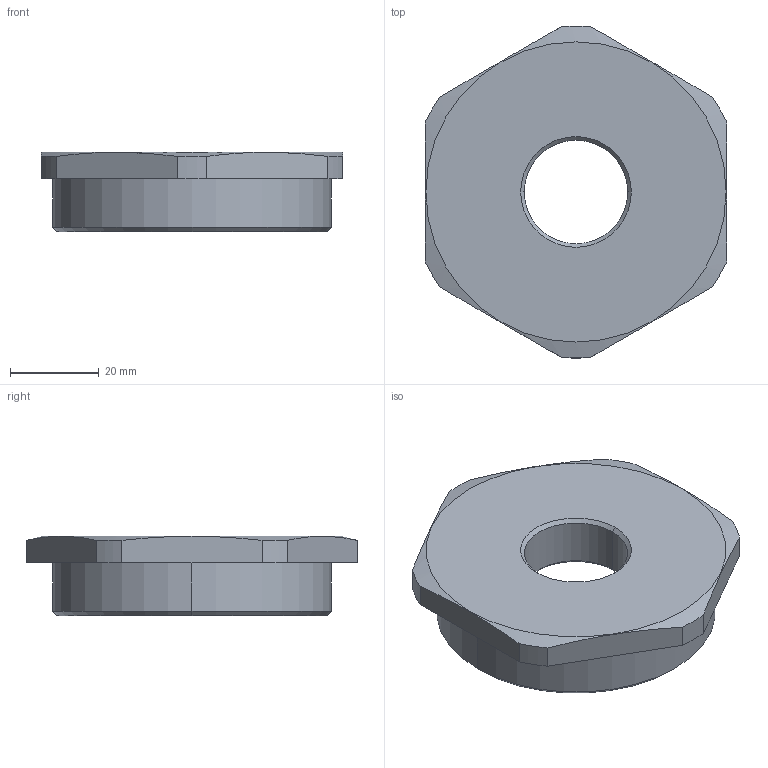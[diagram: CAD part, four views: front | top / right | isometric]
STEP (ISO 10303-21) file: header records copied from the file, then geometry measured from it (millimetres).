
FILE_DESCRIPTION (( 'STEP AP203' ), '1' );
FILE_NAME ('M63M25 PA.STEP', '2005-12-09T08:01:40', ( ' ' ), ( '' ), 'SwSTEP 2.0', 'SolidWorks 2005278', '' );
FILE_SCHEMA (( 'CONFIG_CONTROL_DESIGN' ));
Length unit declared in the file: millimetre
Products named in the file (1): M63M25 PA
Bounding box: 68 x 74.97 x 18 mm (x, y, z)
Volume: 27764.2 mm3; surface area: 15087.5 mm2
Topology: 1 solids, 1 shells, 70 faces, 180 edges, 118 vertices
Faces by surface type: plane 48, cylinder 14, cone 8
Entity records: 2233 total; most frequent: CARTESIAN_POINT 425, ORIENTED_EDGE 360, DIRECTION 350, EDGE_CURVE 180, VECTOR 136, LINE 136, VERTEX_POINT 118, AXIS2_PLACEMENT_3D 107
